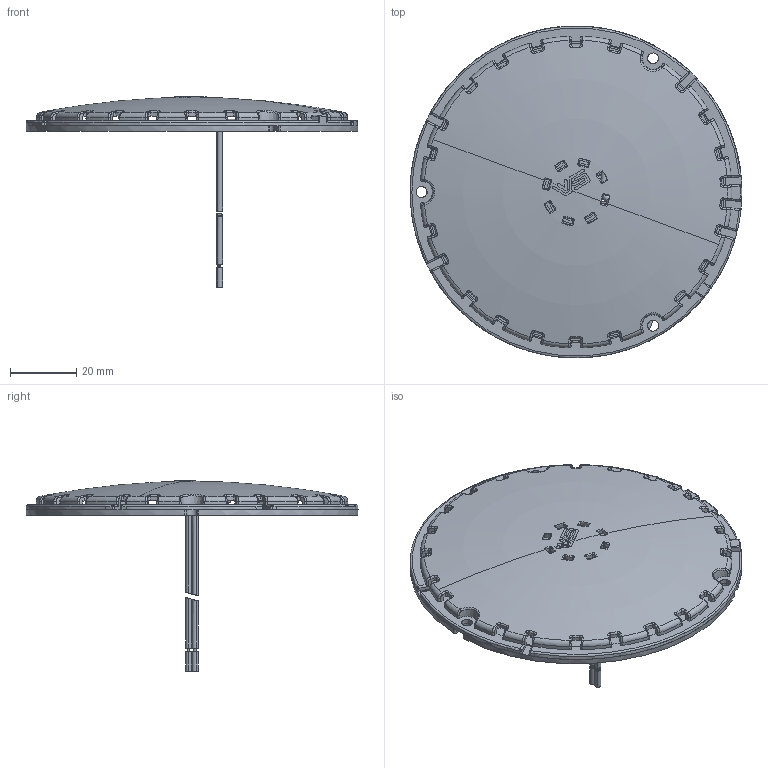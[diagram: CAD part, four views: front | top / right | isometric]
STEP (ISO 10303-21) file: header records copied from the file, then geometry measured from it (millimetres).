
FILE_DESCRIPTION(('Creo Elements/Direct Modeling STEP Export'),'2;1');
FILE_NAME('READYLINE_C10_17W_rear_cable_exit.stp','2020-04-20T13:55:34',(''),(''),'Creo Elements/Direct Modeling STEP processor for AP214 (Solid Model)','Creo Elements/Direct Modeling 20.0E 23-Apr-2019 (C) Parametric Technology GmbH','');
FILE_SCHEMA(('AUTOMOTIVE_DESIGN { 1 0 10303 214 1 1 1 1 }'));
Products named in the file (4): BOARD.PRT; cavo_4; cavo_3; READYLINE_C10_rear_exit
Assembly tree (3 placements, depth 2):
  READYLINE_C10_rear_exit
    cavo_3
    cavo_4
    BOARD.PRT
Bounding box: 100 x 100.05 x 57.44 mm (x, y, z)
Volume: 25372.1 mm3; surface area: 32124.5 mm2
Topology: 3 solids, 12 shells, 1103 faces, 2987 edges, 1883 vertices
Faces by surface type: bspline 379, plane 338, cylinder 226, cone 81, torus 75, sphere 4
Entity records: 66397 total; most frequent: CARTESIAN_POINT 42555, ORIENTED_EDGE 5956, DIRECTION 3440, EDGE_CURVE 2978, VERTEX_POINT 1883, AXIS2_PLACEMENT_3D 1309, B_SPLINE_CURVE_WITH_KNOTS 1172, EDGE_LOOP 1153
